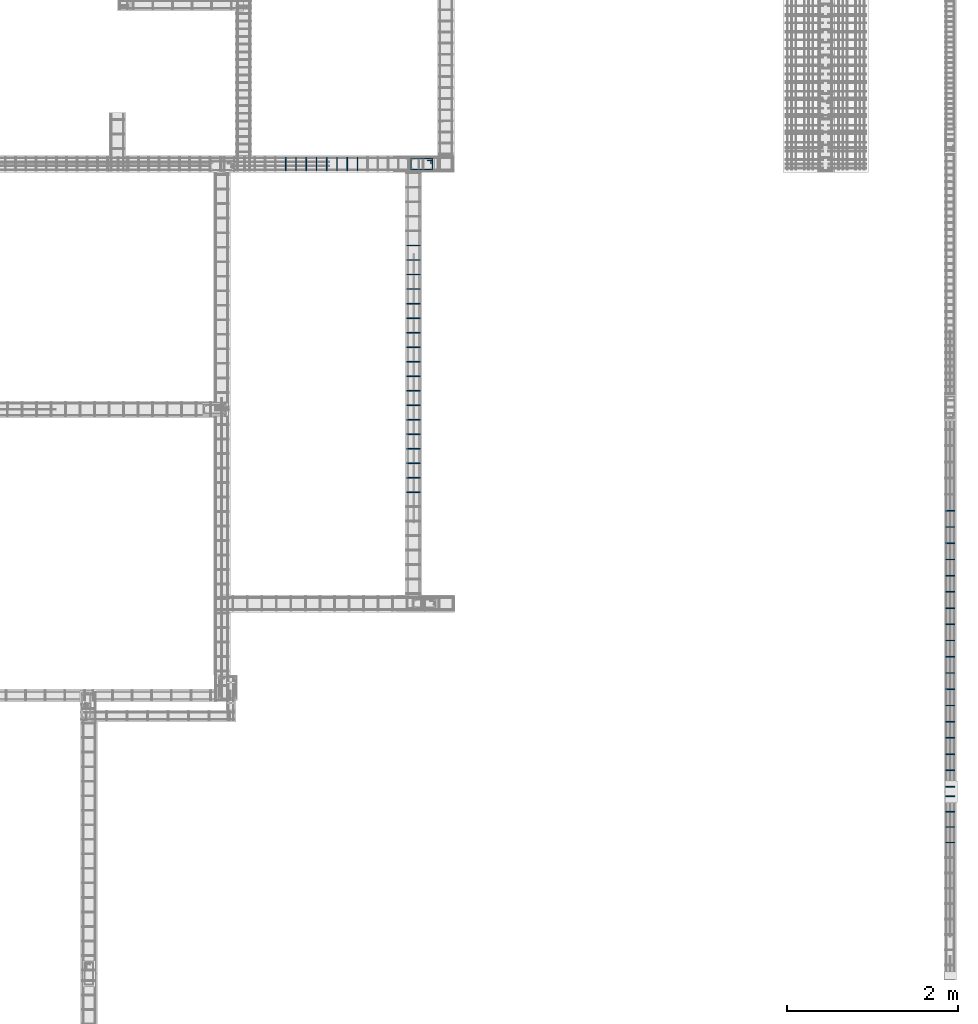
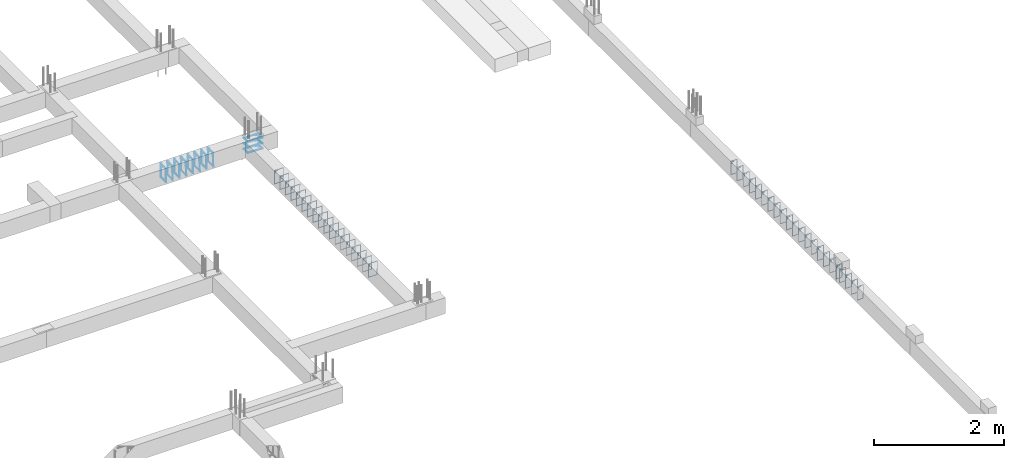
# One storey, part 106 of 150: 51 reinforcing bars.
"""IFC4 building model written with IfcOpenShell, lengths in centimetres."""

import ifcopenshell
import ifcopenshell.guid

model = None  # the IFC model being written
_history = None  # IfcOwnerHistory: only IFC2X3 demands one
_inside = {}  # id of a spatial element -> (the spatial element, [elements in it])
_under = {}  # id of a project, library or spatial element -> (it, [spatial elements below it])
_declared = {}  # id of a project -> (the project, [libraries it declares])
_typed = {}  # id of a type object -> (the type object, [elements of that type])
_made_of = {}  # id of a material, layer set ... -> (it, [elements and type objects made of it])


def new_model(schema):
    """Start an empty IFC model of exactly this schema.

    Asked for "IFC4X3", IfcOpenShell would pick the latest addendum, in which some entities
    have other attributes; the version numbers below select the first issue.
    IFC2X3 requires an IfcOwnerHistory on every rooted entity: one is made here for all.
    """
    global model, _history
    if schema == "IFC4X3":
        model = ifcopenshell.file(schema_version=(4, 3, 0, 0))
    else:
        model = ifcopenshell.file(schema=schema)
    _inside.clear()
    _under.clear()
    _declared.clear()
    _typed.clear()
    _made_of.clear()
    _history = None
    if model.schema == "IFC2X3":
        org = make("IfcOrganization", Name="unknown")
        user = make(
            "IfcPersonAndOrganization",
            ThePerson=make("IfcPerson", FamilyName="unknown"),
            TheOrganization=org,
        )
        app = make(
            "IfcApplication",
            ApplicationDeveloper=org,
            Version="unknown",
            ApplicationFullName="unknown",
            ApplicationIdentifier="unknown",
        )
        _history = make(
            "IfcOwnerHistory",
            OwningUser=user,
            OwningApplication=app,
            ChangeAction="ADDED",
            CreationDate=0,
        )
    return model


def make(cls, **values):
    """One entity of the class cls with the attributes given. An attribute that is None is left unset."""
    return model.create_entity(
        cls, **{name: value for name, value in values.items() if value is not None}
    )


def entity(cls, *values):
    """Any entity or typed value of the class cls, its attributes in the order of the schema. None: left unset."""
    e = model.create_entity(cls)
    for i, value in enumerate(values):
        if value is not None:
            e[i] = value
    return e


def rooted(cls, **values):
    """An entity with a GlobalId (a new one), such as an element, a storey or a relation."""
    return make(cls, GlobalId=ifcopenshell.guid.new(), OwnerHistory=_history, **values)


def si_unit(unit_type, name, prefix=None):
    """IfcSIUnit, for example si_unit("LENGTHUNIT", "METRE", prefix="MILLI")."""
    return make("IfcSIUnit", UnitType=unit_type, Prefix=prefix, Name=name)


def derived_unit(unit_type, elements):
    """IfcDerivedUnit: a product of units, each with its exponent."""
    return make(
        "IfcDerivedUnit",
        Elements=[
            make("IfcDerivedUnitElement", Unit=unit, Exponent=power)
            for unit, power in elements
        ],
        UnitType=unit_type,
    )


def assignment(units):
    """IfcUnitAssignment: the units of a project."""
    return None if units is None else make("IfcUnitAssignment", Units=units)


def point(xyz):
    """IfcCartesianPoint."""
    return None if xyz is None else make("IfcCartesianPoint", Coordinates=xyz)


def direction(xyz):
    """IfcDirection."""
    return None if xyz is None else make("IfcDirection", DirectionRatios=xyz)


def frame(location, z_axis=None, x_axis=None):
    """IfcAxis2Placement3D, a coordinate frame: its origin and axes. An axis left out is left unset."""
    return make(
        "IfcAxis2Placement3D",
        Location=point(location),
        Axis=direction(z_axis),
        RefDirection=direction(x_axis),
    )


def origin_with_axes():
    """The frame at (0, 0, 0) with the z axis (0, 0, 1) and the x axis (1, 0, 0) written out."""
    return frame((0.0, 0.0, 0.0), z_axis=(0.0, 0.0, 1.0), x_axis=(1.0, 0.0, 0.0))


def place(relative_to, where):
    """IfcLocalPlacement: puts the frame where relative to a parent placement (None: the world)."""
    return make(
        "IfcLocalPlacement", PlacementRelTo=relative_to, RelativePlacement=where
    )


def context(
    kind, dimensions, precision=None, world=None, true_north=None, identifier=None
):
    """IfcGeometricRepresentationContext, for example the 3D "Model" context."""
    return make(
        "IfcGeometricRepresentationContext",
        ContextIdentifier=identifier,
        ContextType=kind,
        CoordinateSpaceDimension=dimensions,
        Precision=precision,
        WorldCoordinateSystem=world,
        TrueNorth=true_north,
    )


def project(units=None, contexts=None):
    """IfcProject with its units and contexts."""
    return rooted(
        "IfcProject",
        Name="project",
        RepresentationContexts=contexts,
        UnitsInContext=assignment(units),
    )


def spatial(cls, under=None, at=None, **own):
    """A site, building, storey or space (cls), placed at a placement, below another one or the project."""
    s = rooted(cls, ObjectPlacement=at, **own)
    if under is not None:
        _under.setdefault(under.id(), (under, []))[1].append(s)
    return s


def shape(context_of_items, identifier, shape_type, items):
    """IfcShapeRepresentation: the items that make up one representation, for example the "Body"."""
    return make(
        "IfcShapeRepresentation",
        ContextOfItems=context_of_items,
        RepresentationIdentifier=identifier,
        RepresentationType=shape_type,
        Items=items,
    )


def source(mapping_origin, context_of_items, identifier, shape_type, items):
    """IfcRepresentationMap: a shape defined once, which mapped items show again and again."""
    return make(
        "IfcRepresentationMap",
        MappingOrigin=mapping_origin,
        MappedRepresentation=shape(context_of_items, identifier, shape_type, items),
    )


def transform(
    local_origin,
    x_axis=None,
    y_axis=None,
    z_axis=None,
    scale=None,
    scale2=None,
    scale3=None,
    uniform=True,
):
    """IfcCartesianTransformationOperator3D, or its non-uniform kind. x_axis, y_axis, z_axis: its Axis1, 2, 3."""
    if uniform:
        return make(
            "IfcCartesianTransformationOperator3D",
            Axis1=direction(x_axis),
            Axis2=direction(y_axis),
            LocalOrigin=point(local_origin),
            Scale=scale,
            Axis3=direction(z_axis),
        )
    return make(
        "IfcCartesianTransformationOperator3DnonUniform",
        Axis1=direction(x_axis),
        Axis2=direction(y_axis),
        LocalOrigin=point(local_origin),
        Scale=scale,
        Axis3=direction(z_axis),
        Scale2=scale2,
        Scale3=scale3,
    )


def mapped(mapping_source, mapping_target):
    """IfcMappedItem: shows the shape of a source again, moved by a transform."""
    return make(
        "IfcMappedItem", MappingSource=mapping_source, MappingTarget=mapping_target
    )


def made_of(thing, what):
    """Note that an element or type object is made of a material, layer set ...; save() writes the relation."""
    if what is not None:
        _made_of.setdefault(what.id(), (what, []))[1].append(thing)
    return thing


def element(
    cls,
    number,
    at=None,
    inside=None,
    cuts=None,
    type_object=None,
    material=None,
    context=None,
    identifier="Body",
    shape_type=None,
    held_by="IfcProductDefinitionShape",
    body=None,
    shapes=None,
    **own,
):
    """One element of the class cls, such as IfcWall. Its Tag is "e" and its number.

    at: its placement. inside: the storey or other place that contains it. cuts: it is an
    opening in that element (IfcRelVoidsElement). A single representation is given by context,
    identifier, shape_type and body (its items); several are given by shapes. held_by: the class
    of the entity that holds the representations. save() writes the other relations.
    """
    e = rooted(cls, Tag="e%d" % number, ObjectPlacement=at, **own)
    if body is not None:
        shapes = [shape(context, identifier, shape_type, body)]
    if shapes is not None:
        e.Representation = make(held_by, Representations=shapes)
    if inside is not None:
        _inside.setdefault(inside.id(), (inside, []))[1].append(e)
    if cuts is not None:
        rooted(
            "IfcRelVoidsElement", RelatingBuildingElement=cuts, RelatedOpeningElement=e
        )
    if type_object is not None:
        _typed.setdefault(type_object.id(), (type_object, []))[1].append(e)
    return made_of(e, material)


def aggregate(whole, parts):
    """IfcRelAggregates: a whole, such as a stair, and the parts it consists of."""
    return rooted("IfcRelAggregates", RelatingObject=whole, RelatedObjects=parts)


def save(model, path):
    """Write the relations noted so far, then the file.

    IfcRelAggregates (storeys below a building ...), IfcRelContainedInSpatialStructure (elements
    in a storey), IfcRelDefinesByType, IfcRelAssociatesMaterial and IfcRelDeclares: one each for
    every whole, place, type object, material and project.
    """
    for whole, parts in _under.values():
        aggregate(whole, parts)
    for where, things in _inside.values():
        rooted(
            "IfcRelContainedInSpatialStructure",
            RelatedElements=things,
            RelatingStructure=where,
        )
    for kind, things in _typed.values():
        rooted("IfcRelDefinesByType", RelatedObjects=things, RelatingType=kind)
    for what, things in _made_of.values():
        rooted("IfcRelAssociatesMaterial", RelatedObjects=things, RelatingMaterial=what)
    for by, libraries in _declared.values():
        rooted("IfcRelDeclares", RelatingContext=by, RelatedDefinitions=libraries)
    model.write(path)


model = new_model("IFC4")

# Units and contexts
model_context = context("Model", 3, precision=1e-05, world=origin_with_axes(), identifier="Body")
ifc_project = project(units=[si_unit("LENGTHUNIT", "METRE", prefix="CENTI"), si_unit("VOLUMEUNIT", "CUBIC_METRE"), si_unit("AREAUNIT", "SQUARE_METRE"), si_unit("POWERUNIT", "WATT"), si_unit("LUMINOUSFLUXUNIT", "LUMEN"), si_unit("ELECTRICCURRENTUNIT", "AMPERE"), si_unit("PRESSUREUNIT", "PASCAL", prefix="KILO"), si_unit("MASSUNIT", "GRAM", prefix="KILO"), si_unit("PLANEANGLEUNIT", "RADIAN"), derived_unit("VOLUMETRICFLOWRATEUNIT", [(si_unit("LENGTHUNIT", "METRE"), 3), (si_unit("TIMEUNIT", "SECOND"), -1)])], contexts=[model_context])

# Site, building, storey
site_placement = place(None, frame((-4000.0, 0.0, 0.0), z_axis=(0.0, 0.0, 1.0), x_axis=(1.0, 0.0, 0.0)))
site = spatial("IfcSite", under=ifc_project, at=site_placement, Name="PADRÃO")
building_placement = place(site_placement, frame((0.0, 0.0, -14.0)))
building = spatial("IfcBuilding", under=site, at=building_placement, Name="CRECHE PRÉ-ESCOLA TIPO 2")
placement = place(building_placement, origin_with_axes())
storey_placement = place(placement, frame((0.0, 0.0, 30.0), z_axis=(0.0, 0.0, 1.0), x_axis=(1.0, 0.0, 0.0)))
storey = spatial("IfcBuildingStorey", under=building, at=storey_placement, Name="VIGA BALDRAME", CompositionType="ELEMENT", Elevation=16.0)

# Reinforcing bars
shared_shape_1 = source(origin_with_axes(), model_context, "Body", "AdvancedSweptSolid", [
    entity("IfcSweptDiskSolid", entity("IfcCompositeCurve", [entity("IfcCompositeCurveSegment", "CONTINUOUS", True, entity("IfcPolyline", [entity("IfcCartesianPoint", [4.25, 21.75, 0.0]), entity("IfcCartesianPoint", [4.25, 27.75, 0.0])])), entity("IfcCompositeCurveSegment", "CONTINUOUS", True, entity("IfcPolyline", [entity("IfcCartesianPoint", [4.25, 27.75, 0.0]), entity("IfcCartesianPoint", [2.25, 27.75, 0.0])])), entity("IfcCompositeCurveSegment", "CONTINUOUS", True, entity("IfcPolyline", [entity("IfcCartesianPoint", [2.25, 27.75, 0.0]), entity("IfcCartesianPoint", [2.25, 2.25, 0.0])])), entity("IfcCompositeCurveSegment", "CONTINUOUS", True, entity("IfcPolyline", [entity("IfcCartesianPoint", [2.25, 2.25, 0.0]), entity("IfcCartesianPoint", [14.75, 2.25, 0.0])])), entity("IfcCompositeCurveSegment", "CONTINUOUS", True, entity("IfcPolyline", [entity("IfcCartesianPoint", [14.75, 2.25, 0.0]), entity("IfcCartesianPoint", [14.75, 27.75, -0.5])])), entity("IfcCompositeCurveSegment", "CONTINUOUS", True, entity("IfcPolyline", [entity("IfcCartesianPoint", [14.75, 27.75, -0.5]), entity("IfcCartesianPoint", [2.25, 27.75, -0.5])])), entity("IfcCompositeCurveSegment", "CONTINUOUS", True, entity("IfcPolyline", [entity("IfcCartesianPoint", [2.25, 27.75, -0.5]), entity("IfcCartesianPoint", [2.25, 25.75, -0.5])])), entity("IfcCompositeCurveSegment", "CONTINUOUS", True, entity("IfcPolyline", [entity("IfcCartesianPoint", [2.25, 25.75, -0.5]), entity("IfcCartesianPoint", [8.25, 25.75, -0.5])]))], False), 0.25),
])
for number, where, z_axis, x_axis, name in (
    (1, (3357.5, 3208.52, -25.0), (0.0, 0.0, 1.0), (0.0, -1.0, 0.0), "P56 - Estribo"),
    (2, (3357.5, 3208.52, -5.0), (0.0, 0.0, 1.0), (0.0, -1.0, 0.0), "P56 - Estribo"),
    (3, (3357.5, 3208.52, -15.0), (0.0, 0.0, 1.0), (0.0, -1.0, 0.0), "P56 - Estribo"),
):
    element("IfcReinforcingBar", number, at=place(storey_placement, frame(where, z_axis=z_axis, x_axis=x_axis)), inside=storey, Name=name, BarLength=0.0, CrossSectionArea=1.9634954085e-05, NominalDiameter=0.5, PredefinedType="MAIN", context=model_context, shape_type="MappedRepresentation", body=[
        mapped(shared_shape_1, transform((0.0, 0.0, 0.0), scale=1.0)),
    ])
shared_shape_2 = source(origin_with_axes(), model_context, "Body", "AdvancedSweptSolid", [
    entity("IfcSweptDiskSolid", entity("IfcCompositeCurve", [entity("IfcCompositeCurveSegment", "CONTINUOUS", True, entity("IfcPolyline", [entity("IfcCartesianPoint", [2.0, -6.0, 0.0]), entity("IfcCartesianPoint", [2.0, 0.0, 0.0])])), entity("IfcCompositeCurveSegment", "CONTINUOUS", True, entity("IfcPolyline", [entity("IfcCartesianPoint", [2.0, 0.0, 0.0]), entity("IfcCartesianPoint", [0.0, 0.0, 0.0])])), entity("IfcCompositeCurveSegment", "CONTINUOUS", True, entity("IfcPolyline", [entity("IfcCartesianPoint", [0.0, 0.0, 0.0]), entity("IfcCartesianPoint", [0.0, -25.5, 0.0])])), entity("IfcCompositeCurveSegment", "CONTINUOUS", True, entity("IfcPolyline", [entity("IfcCartesianPoint", [0.0, -25.5, 0.0]), entity("IfcCartesianPoint", [15.5, -25.5, 0.0])])), entity("IfcCompositeCurveSegment", "CONTINUOUS", True, entity("IfcPolyline", [entity("IfcCartesianPoint", [15.5, -25.5, 0.0]), entity("IfcCartesianPoint", [15.5, 0.0, 0.5])])), entity("IfcCompositeCurveSegment", "CONTINUOUS", True, entity("IfcPolyline", [entity("IfcCartesianPoint", [15.5, 0.0, 0.5]), entity("IfcCartesianPoint", [0.0, 0.0, 0.5])])), entity("IfcCompositeCurveSegment", "CONTINUOUS", True, entity("IfcPolyline", [entity("IfcCartesianPoint", [0.0, 0.0, 0.5]), entity("IfcCartesianPoint", [0.0, -2.0, 0.5])])), entity("IfcCompositeCurveSegment", "CONTINUOUS", True, entity("IfcPolyline", [entity("IfcCartesianPoint", [0.0, -2.0, 0.5]), entity("IfcCartesianPoint", [6.0, -2.0, 0.5])]))], False), 0.25),
])
for number, where, z_axis, x_axis, name in (
    (4, (3273.5, 3207.77, -2.25), (-1.0, 0.0, 0.0), (0.0, -1.0, 0.0), "V114 - Estribo"),
    (5, (3297.5, 3207.77, -2.25), (-1.0, 0.0, 0.0), (0.0, -1.0, 0.0), "V114 - Estribo"),
    (6, (3285.5, 3207.77, -2.25), (-1.0, 0.0, 0.0), (0.0, -1.0, 0.0), "V114 - Estribo"),
    (7, (3261.5, 3207.77, -2.25), (-1.0, 0.0, 0.0), (0.0, -1.0, 0.0), "V114 - Estribo"),
    (8, (3249.5, 3207.77, -2.25), (-1.0, 0.0, 0.0), (0.0, -1.0, 0.0), "V114 - Estribo"),
    (9, (3237.5, 3207.77, -2.25), (-1.0, 0.0, 0.0), (0.0, -1.0, 0.0), "V114 - Estribo"),
    (10, (3225.5, 3207.77, -2.25), (-1.0, 0.0, 0.0), (0.0, -1.0, 0.0), "V114 - Estribo"),
    (11, (3213.5, 3207.77, -2.25), (-1.0, 0.0, 0.0), (0.0, -1.0, 0.0), "V114 - Estribo"),
):
    element("IfcReinforcingBar", number, at=place(storey_placement, frame(where, z_axis=z_axis, x_axis=x_axis)), inside=storey, Name=name, BarLength=0.0, CrossSectionArea=1.9634954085e-05, NominalDiameter=0.5, PredefinedType="MAIN", context=model_context, shape_type="MappedRepresentation", body=[
        mapped(shared_shape_2, transform((0.0, 0.0, 0.0), scale=1.0)),
    ])
shared_shape_3 = source(origin_with_axes(), model_context, "Body", "AdvancedSweptSolid", [
    entity("IfcSweptDiskSolid", entity("IfcCompositeCurve", [entity("IfcCompositeCurveSegment", "CONTINUOUS", True, entity("IfcPolyline", [entity("IfcCartesianPoint", [2.0, -6.0, 0.0]), entity("IfcCartesianPoint", [2.0, 0.0, 0.0])])), entity("IfcCompositeCurveSegment", "CONTINUOUS", True, entity("IfcPolyline", [entity("IfcCartesianPoint", [2.0, 0.0, 0.0]), entity("IfcCartesianPoint", [0.0, 0.0, 0.0])])), entity("IfcCompositeCurveSegment", "CONTINUOUS", True, entity("IfcPolyline", [entity("IfcCartesianPoint", [0.0, 0.0, 0.0]), entity("IfcCartesianPoint", [0.0, -25.5, 0.0])])), entity("IfcCompositeCurveSegment", "CONTINUOUS", True, entity("IfcPolyline", [entity("IfcCartesianPoint", [0.0, -25.5, 0.0]), entity("IfcCartesianPoint", [15.5, -25.5, 0.0])])), entity("IfcCompositeCurveSegment", "CONTINUOUS", True, entity("IfcPolyline", [entity("IfcCartesianPoint", [15.5, -25.5, 0.0]), entity("IfcCartesianPoint", [15.5, 0.0, 0.5])])), entity("IfcCompositeCurveSegment", "CONTINUOUS", True, entity("IfcPolyline", [entity("IfcCartesianPoint", [15.5, 0.0, 0.5]), entity("IfcCartesianPoint", [0.0, 0.0, 0.5])])), entity("IfcCompositeCurveSegment", "CONTINUOUS", True, entity("IfcPolyline", [entity("IfcCartesianPoint", [0.0, 0.0, 0.5]), entity("IfcCartesianPoint", [0.0, -2.0, 0.5])])), entity("IfcCompositeCurveSegment", "CONTINUOUS", True, entity("IfcPolyline", [entity("IfcCartesianPoint", [0.0, -2.0, 0.5]), entity("IfcCartesianPoint", [6.0, -2.0, 0.5])]))], False), 0.25),
])
for number, where, z_axis, x_axis, name in (
    (12, (3355.25, 2900.77, -2.25), (0.0, -1.0, 0.0), (1.0, 0.0, 0.0), "V227 - Estribo"),
    (13, (3355.25, 2883.77, -2.25), (0.0, -1.0, 0.0), (1.0, 0.0, 0.0), "V227 - Estribo"),
    (14, (3355.25, 2866.77, -2.25), (0.0, -1.0, 0.0), (1.0, 0.0, 0.0), "V227 - Estribo"),
    (15, (3355.25, 2849.77, -2.25), (0.0, -1.0, 0.0), (1.0, 0.0, 0.0), "V227 - Estribo"),
    (16, (3355.25, 2832.77, -2.25), (0.0, -1.0, 0.0), (1.0, 0.0, 0.0), "V227 - Estribo"),
    (17, (3355.25, 2815.77, -2.25), (0.0, -1.0, 0.0), (1.0, 0.0, 0.0), "V227 - Estribo"),
    (18, (3355.25, 3019.77, -2.25), (0.0, -1.0, 0.0), (1.0, 0.0, 0.0), "V227 - Estribo"),
    (19, (3355.25, 3104.77, -2.25), (0.0, -1.0, 0.0), (1.0, 0.0, 0.0), "V227 - Estribo"),
    (20, (3355.25, 3087.77, -2.25), (0.0, -1.0, 0.0), (1.0, 0.0, 0.0), "V227 - Estribo"),
    (21, (3355.25, 3070.77, -2.25), (0.0, -1.0, 0.0), (1.0, 0.0, 0.0), "V227 - Estribo"),
    (22, (3355.25, 3053.77, -2.25), (0.0, -1.0, 0.0), (1.0, 0.0, 0.0), "V227 - Estribo"),
    (23, (3355.25, 3036.77, -2.25), (0.0, -1.0, 0.0), (1.0, 0.0, 0.0), "V227 - Estribo"),
    (24, (3355.25, 3002.77, -2.25), (0.0, -1.0, 0.0), (1.0, 0.0, 0.0), "V227 - Estribo"),
    (25, (3355.25, 2985.77, -2.25), (0.0, -1.0, 0.0), (1.0, 0.0, 0.0), "V227 - Estribo"),
    (26, (3355.25, 2968.77, -2.25), (0.0, -1.0, 0.0), (1.0, 0.0, 0.0), "V227 - Estribo"),
    (27, (3355.25, 2951.77, -2.25), (0.0, -1.0, 0.0), (1.0, 0.0, 0.0), "V227 - Estribo"),
    (28, (3355.25, 2934.77, -2.25), (0.0, -1.0, 0.0), (1.0, 0.0, 0.0), "V227 - Estribo"),
    (29, (3355.25, 2917.77, -2.25), (0.0, -1.0, 0.0), (1.0, 0.0, 0.0), "V227 - Estribo"),
):
    element("IfcReinforcingBar", number, at=place(storey_placement, frame(where, z_axis=z_axis, x_axis=x_axis)), inside=storey, Name=name, BarLength=0.0, CrossSectionArea=1.9634954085e-05, NominalDiameter=0.5, PredefinedType="MAIN", context=model_context, shape_type="MappedRepresentation", body=[
        mapped(shared_shape_3, transform((0.0, 0.0, 0.0), scale=1.0)),
    ])
shared_shape_4 = source(origin_with_axes(), model_context, "Body", "AdvancedSweptSolid", [
    entity("IfcSweptDiskSolid", entity("IfcCompositeCurve", [entity("IfcCompositeCurveSegment", "CONTINUOUS", True, entity("IfcPolyline", [entity("IfcCartesianPoint", [2.0, -6.0, 0.0]), entity("IfcCartesianPoint", [2.0, 0.0, 0.0])])), entity("IfcCompositeCurveSegment", "CONTINUOUS", True, entity("IfcPolyline", [entity("IfcCartesianPoint", [2.0, 0.0, 0.0]), entity("IfcCartesianPoint", [0.0, 0.0, 0.0])])), entity("IfcCompositeCurveSegment", "CONTINUOUS", True, entity("IfcPolyline", [entity("IfcCartesianPoint", [0.0, 0.0, 0.0]), entity("IfcCartesianPoint", [0.0, -25.5, 0.0])])), entity("IfcCompositeCurveSegment", "CONTINUOUS", True, entity("IfcPolyline", [entity("IfcCartesianPoint", [0.0, -25.5, 0.0]), entity("IfcCartesianPoint", [10.5, -25.5, 0.0])])), entity("IfcCompositeCurveSegment", "CONTINUOUS", True, entity("IfcPolyline", [entity("IfcCartesianPoint", [10.5, -25.5, 0.0]), entity("IfcCartesianPoint", [10.5, 0.0, 0.5])])), entity("IfcCompositeCurveSegment", "CONTINUOUS", True, entity("IfcPolyline", [entity("IfcCartesianPoint", [10.5, 0.0, 0.5]), entity("IfcCartesianPoint", [0.0, 0.0, 0.5])])), entity("IfcCompositeCurveSegment", "CONTINUOUS", True, entity("IfcPolyline", [entity("IfcCartesianPoint", [0.0, 0.0, 0.5]), entity("IfcCartesianPoint", [0.0, -2.0, 0.5])])), entity("IfcCompositeCurveSegment", "CONTINUOUS", True, entity("IfcPolyline", [entity("IfcCartesianPoint", [0.0, -2.0, 0.5]), entity("IfcCartesianPoint", [6.0, -2.0, 0.5])]))], False), 0.25),
])
for number, where, z_axis, x_axis, name in (
    (30, (3986.25, 2459.73, -17.25), (0.0, -1.0, 0.0), (1.0, 0.0, 0.0), "V230 - Estribo"),
    (31, (3986.25, 2441.73, -17.25), (0.0, -1.0, 0.0), (1.0, 0.0, 0.0), "V230 - Estribo"),
    (32, (3986.25, 2423.73, -17.25), (0.0, -1.0, 0.0), (1.0, 0.0, 0.0), "V230 - Estribo"),
    (33, (3986.25, 2405.73, -17.25), (0.0, -1.0, 0.0), (1.0, 0.0, 0.0), "V230 - Estribo"),
):
    element("IfcReinforcingBar", number, at=place(storey_placement, frame(where, z_axis=z_axis, x_axis=x_axis)), inside=storey, Name=name, BarLength=0.0, CrossSectionArea=1.9634954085e-05, NominalDiameter=0.5, PredefinedType="MAIN", context=model_context, shape_type="MappedRepresentation", body=[
        mapped(shared_shape_4, transform((0.0, 0.0, 0.0), scale=1.0)),
    ])
shared_shape_5 = source(origin_with_axes(), model_context, "Body", "AdvancedSweptSolid", [
    entity("IfcSweptDiskSolid", entity("IfcCompositeCurve", [entity("IfcCompositeCurveSegment", "CONTINUOUS", True, entity("IfcPolyline", [entity("IfcCartesianPoint", [2.0, -6.0, 0.0]), entity("IfcCartesianPoint", [2.0, 0.0, 0.0])])), entity("IfcCompositeCurveSegment", "CONTINUOUS", True, entity("IfcPolyline", [entity("IfcCartesianPoint", [2.0, 0.0, 0.0]), entity("IfcCartesianPoint", [0.0, 0.0, 0.0])])), entity("IfcCompositeCurveSegment", "CONTINUOUS", True, entity("IfcPolyline", [entity("IfcCartesianPoint", [0.0, 0.0, 0.0]), entity("IfcCartesianPoint", [0.0, -25.5, 0.0])])), entity("IfcCompositeCurveSegment", "CONTINUOUS", True, entity("IfcPolyline", [entity("IfcCartesianPoint", [0.0, -25.5, 0.0]), entity("IfcCartesianPoint", [10.5, -25.5, 0.0])])), entity("IfcCompositeCurveSegment", "CONTINUOUS", True, entity("IfcPolyline", [entity("IfcCartesianPoint", [10.5, -25.5, 0.0]), entity("IfcCartesianPoint", [10.5, 0.0, 0.5])])), entity("IfcCompositeCurveSegment", "CONTINUOUS", True, entity("IfcPolyline", [entity("IfcCartesianPoint", [10.5, 0.0, 0.5]), entity("IfcCartesianPoint", [0.0, 0.0, 0.5])])), entity("IfcCompositeCurveSegment", "CONTINUOUS", True, entity("IfcPolyline", [entity("IfcCartesianPoint", [0.0, 0.0, 0.5]), entity("IfcCartesianPoint", [0.0, -2.0, 0.5])])), entity("IfcCompositeCurveSegment", "CONTINUOUS", True, entity("IfcPolyline", [entity("IfcCartesianPoint", [0.0, -2.0, 0.5]), entity("IfcCartesianPoint", [6.0, -2.0, 0.5])]))], False), 0.25),
])
for number, where, z_axis, x_axis, name in (
    (34, (3986.25, 2794.135, -17.25), (0.0, -1.0, 0.0), (1.0, 0.0, 0.0), "V230 - Estribo"),
    (35, (3986.25, 2775.135, -17.25), (0.0, -1.0, 0.0), (1.0, 0.0, 0.0), "V230 - Estribo"),
    (36, (3986.25, 2756.135, -17.25), (0.0, -1.0, 0.0), (1.0, 0.0, 0.0), "V230 - Estribo"),
    (37, (3986.25, 2737.135, -17.25), (0.0, -1.0, 0.0), (1.0, 0.0, 0.0), "V230 - Estribo"),
    (38, (3986.25, 2718.135, -17.25), (0.0, -1.0, 0.0), (1.0, 0.0, 0.0), "V230 - Estribo"),
    (39, (3986.25, 2699.135, -17.25), (0.0, -1.0, 0.0), (1.0, 0.0, 0.0), "V230 - Estribo"),
    (40, (3986.25, 2680.135, -17.25), (0.0, -1.0, 0.0), (1.0, 0.0, 0.0), "V230 - Estribo"),
    (41, (3986.25, 2661.135, -17.25), (0.0, -1.0, 0.0), (1.0, 0.0, 0.0), "V230 - Estribo"),
    (42, (3986.25, 2642.135, -17.25), (0.0, -1.0, 0.0), (1.0, 0.0, 0.0), "V230 - Estribo"),
    (43, (3986.25, 2623.135, -17.25), (0.0, -1.0, 0.0), (1.0, 0.0, 0.0), "V230 - Estribo"),
    (44, (3986.25, 2604.135, -17.25), (0.0, -1.0, 0.0), (1.0, 0.0, 0.0), "V230 - Estribo"),
    (45, (3986.25, 2585.135, -17.25), (0.0, -1.0, 0.0), (1.0, 0.0, 0.0), "V230 - Estribo"),
    (46, (3986.25, 2566.135, -17.25), (0.0, -1.0, 0.0), (1.0, 0.0, 0.0), "V230 - Estribo"),
    (47, (3986.25, 2547.135, -17.25), (0.0, -1.0, 0.0), (1.0, 0.0, 0.0), "V230 - Estribo"),
    (48, (3986.25, 2528.135, -17.25), (0.0, -1.0, 0.0), (1.0, 0.0, 0.0), "V230 - Estribo"),
    (49, (3986.25, 2509.135, -17.25), (0.0, -1.0, 0.0), (1.0, 0.0, 0.0), "V230 - Estribo"),
    (50, (3986.25, 2490.135, -17.25), (0.0, -1.0, 0.0), (1.0, 0.0, 0.0), "V230 - Estribo"),
    (51, (3986.25, 2471.135, -17.25), (0.0, -1.0, 0.0), (1.0, 0.0, 0.0), "V230 - Estribo"),
):
    element("IfcReinforcingBar", number, at=place(storey_placement, frame(where, z_axis=z_axis, x_axis=x_axis)), inside=storey, Name=name, BarLength=0.0, CrossSectionArea=1.9634954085e-05, NominalDiameter=0.5, PredefinedType="MAIN", context=model_context, shape_type="MappedRepresentation", body=[
        mapped(shared_shape_5, transform((0.0, 0.0, 0.0), scale=1.0)),
    ])

save(model, "model.ifc")
